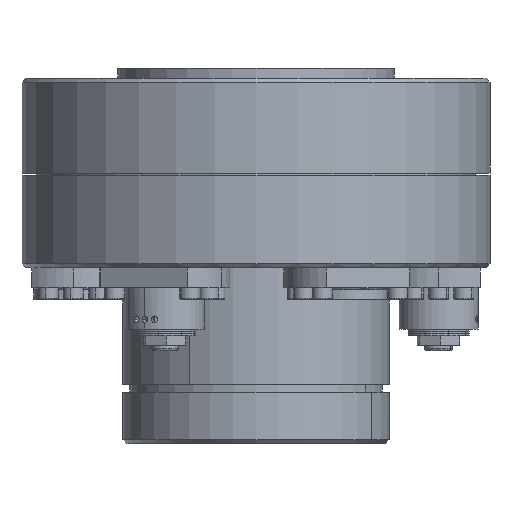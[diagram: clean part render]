
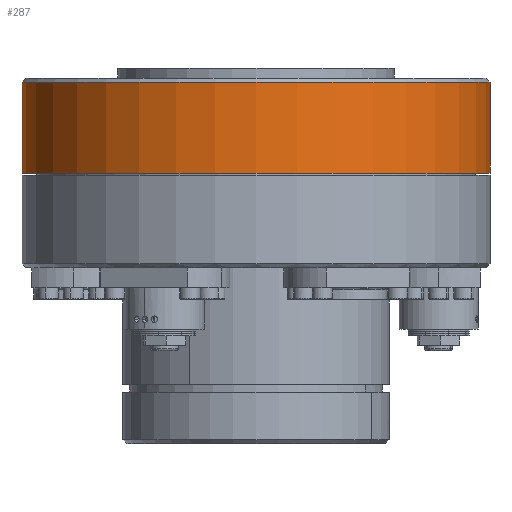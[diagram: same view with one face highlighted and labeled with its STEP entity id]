
A CAD part, front view. The second image highlights one B-rep face of the part: STEP entity #287.
In plain terms, the highlighted cylindrical face has radius 118.5 mm (diameter 237 mm), a partial arc.
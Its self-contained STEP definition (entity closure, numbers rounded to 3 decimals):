
#287=ADVANCED_FACE('',(#3087),#3088,.T.);
#3087=FACE_OUTER_BOUND('',#8798,.T.);
#3088=CYLINDRICAL_SURFACE('',#8799,118.5);
#8798=EDGE_LOOP('',(#21390,#21391,#21392,#21393));
#8799=AXIS2_PLACEMENT_3D('',#21394,#21395,#21396);
#21390=ORIENTED_EDGE('',*,*,#43358,.F.);
#21391=ORIENTED_EDGE('',*,*,#43359,.F.);
#21392=ORIENTED_EDGE('',*,*,#43360,.F.);
#21393=ORIENTED_EDGE('',*,*,#43361,.T.);
#21394=CARTESIAN_POINT('',(0.,0.,88.0));
#21395=DIRECTION('',(0.,0.,-1.0));
#21396=DIRECTION('',(-1.0,0.,0.));
#43358=EDGE_CURVE('',#52381,#52382,#52383,.T.);
#43359=EDGE_CURVE('',#52384,#52381,#52385,.T.);
#43360=EDGE_CURVE('',#52386,#52384,#52387,.T.);
#43361=EDGE_CURVE('',#52386,#52382,#52388,.T.);
#52381=VERTEX_POINT('',#66909);
#52382=VERTEX_POINT('',#66910);
#52383=LINE('',#66911,#66912);
#52384=VERTEX_POINT('',#66913);
#52385=CIRCLE('',#66914,118.5);
#52386=VERTEX_POINT('',#66915);
#52387=LINE('',#66916,#66917);
#52388=CIRCLE('',#66918,118.5);
#66909=CARTESIAN_POINT('',(-118.5,0.,42.0));
#66910=CARTESIAN_POINT('',(-118.5,0.,88.0));
#66911=CARTESIAN_POINT('',(-118.5,0.,88.0));
#66912=VECTOR('',#91850,1.0);
#66913=CARTESIAN_POINT('',(118.5,0.,42.0));
#66914=AXIS2_PLACEMENT_3D('',#91851,#91852,#91853);
#66915=CARTESIAN_POINT('',(118.5,0.,88.0));
#66916=CARTESIAN_POINT('',(118.5,0.,88.0));
#66917=VECTOR('',#91854,1.0);
#66918=AXIS2_PLACEMENT_3D('',#91855,#91856,#91857);
#91850=DIRECTION('',(0.,0.,1.0));
#91851=CARTESIAN_POINT('',(0.,0.,42.0));
#91852=DIRECTION('',(0.,0.,-1.0));
#91853=DIRECTION('',(1.0,0.,0.));
#91854=DIRECTION('',(0.,0.,-1.0));
#91855=CARTESIAN_POINT('',(0.,0.,88.0));
#91856=DIRECTION('',(0.,0.,-1.0));
#91857=DIRECTION('',(1.0,0.,0.));
